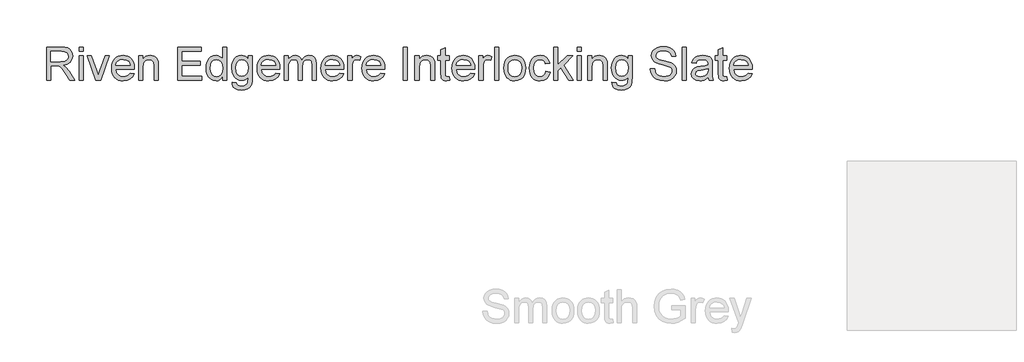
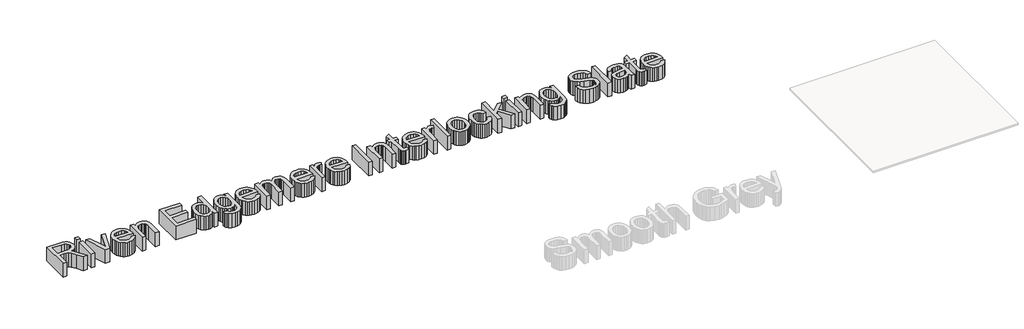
# One storey, part 7 of 8: 1 proxy.
"""IFC4 building model written with IfcOpenShell, lengths in millimetres."""

from ifc_helpers import new_model, si_unit, frame, origin, place, context, project, spatial, polyline, outline, extrude, element, save

model = new_model("IFC4")

# Units and contexts
model_context = context("Model", 3, world=origin())
ifc_project = project(units=[si_unit("LENGTHUNIT", "METRE", prefix="MILLI")], contexts=[model_context])

# Site, building, storey
site = spatial("IfcSite", under=ifc_project)
building = spatial("IfcBuilding", under=site)
storey = spatial("IfcBuildingStorey", under=building, Name="Marley Concrete Interlocking Tiles", Elevation=3000.0)

# Proxy
placement = place(None, origin())
element("IfcBuildingElementProxy", 1, Name="600mm Arial", ObjectType="600mm Arial", at=placement, inside=storey, context=model_context, shape_type="SweptSolid", body=[
    extrude(outline(polyline([(3242.0495664, 5754.8577194), (3242.0495664, 6050.2423348), (3369.3332203, 6050.2423348), (3403.5429558, 6048.2501473), (3428.4317779, 6042.2735848), (3446.6228837, 6031.2399309), (3460.7394703, 6014.0764694), (3469.7989654, 5992.7934165), (3472.8187972, 5969.4009886), (3467.8157924, 5940.3024309), (3452.8067779, 5916.1798348), (3441.4373368, 5906.3496064), (3427.3410328, 5898.4935367), (3390.9678356, 5888.7038732), (3411.9534126, 5872.910604), (3441.8812972, 5834.9057963), (3491.1361049, 5754.8577194), (3448.227451, 5754.8577194), (3409.789951, 5816.0836809), (3382.0255279, 5856.6125271), (3362.5183164, 5875.7591617), (3344.9582203, 5882.7904117), (3323.539951, 5884.0884886), (3278.9726433, 5884.0884886), (3278.9726433, 5754.8577194), (3242.0495664, 5754.8577194)]), holes=[polyline([(3278.9726433, 5921.0115655), (3361.6168741, 5921.0115655), (3385.3518501, 5922.3186569), (3403.7683164, 5926.2399309), (3417.6324991, 5933.0368059), (3427.7106241, 5942.9707001), (3433.8494462, 5954.9869261), (3435.8957203, 5968.0307963), (3431.9924751, 5986.0416136), (3420.2827395, 6000.5548348), (3400.1355039, 6010.1281521), (3370.9197587, 6013.3192578), (3278.9726433, 6013.3192578), (3278.9726433, 5921.0115655)])]), frame((0.0, 0.0, 3000.0), z_axis=(0.0, 0.0, 1.0), x_axis=(1.0, 0.0, 0.0)), (0.0, 0.0, 1.0), 150.0),
    extrude(outline(polyline([(3532.8187972, 5754.8577194), (3532.8187972, 5971.7807963), (3569.7418741, 5971.7807963), (3569.7418741, 5754.8577194), (3532.8187972, 5754.8577194)])), frame((0.0, 0.0, 3000.0), z_axis=(0.0, 0.0, 1.0), x_axis=(1.0, 0.0, 0.0)), (0.0, 0.0, 1.0), 150.0),
    extrude(outline(polyline([(3532.8187972, 6013.3192578), (3532.8187972, 6050.2423348), (3569.7418741, 6050.2423348), (3569.7418741, 6013.3192578), (3532.8187972, 6013.3192578)])), frame((0.0, 0.0, 3000.0), z_axis=(0.0, 0.0, 1.0), x_axis=(1.0, 0.0, 0.0)), (0.0, 0.0, 1.0), 150.0),
    extrude(outline(polyline([(3678.3476433, 5754.8577194), (3602.0495664, 5971.7807963), (3641.1361049, 5971.7807963), (3687.3620664, 5841.8288732), (3701.2803356, 5798.1269501), (3714.9101433, 5839.3769501), (3761.4245664, 5971.7807963), (3800.5111049, 5971.7807963), (3725.1505279, 5754.8577194), (3678.3476433, 5754.8577194)])), frame((0.0, 0.0, 3000.0), z_axis=(0.0, 0.0, 1.0), x_axis=(1.0, 0.0, 0.0)), (0.0, 0.0, 1.0), 150.0),
    extrude(outline(polyline([(3984.6937972, 5819.473104), (4020.8957203, 5814.8577194), (4007.8518501, 5787.5800751), (3987.0375472, 5767.1894501), (3958.9215616, 5754.4791136), (3923.9726433, 5750.2423348), (3901.0624871, 5752.070009), (3880.649326, 5757.5530319), (3862.7331602, 5766.6914033), (3847.3139895, 5779.4851232), (3834.9146505, 5795.578122), (3826.0579799, 5814.61433), (3820.7439775, 5836.593747), (3818.9726433, 5861.5163732), (3820.7620063, 5887.2841016), (3826.1300953, 5909.9959405), (3835.0769102, 5929.65189), (3847.602451, 5946.2519501), (3862.9810568, 5959.4400511), (3880.4870664, 5968.8601232), (3900.1204799, 5974.5121665), (3921.8812972, 5976.3961809), (3942.9412431, 5974.5166737), (3961.9864654, 5968.8781521), (3979.0169642, 5959.480616), (3994.0327395, 5946.3240655), (4006.2901013, 5929.7600631), (4015.0453597, 5910.1401713), (4020.2985147, 5887.46439), (4022.0495664, 5861.7327194), (4021.8332203, 5851.7807963), (3855.8957203, 5851.7807963), (3862.2869462, 5824.1425751), (3877.133701, 5803.8240655), (3898.5609847, 5791.3300751), (3924.6937972, 5787.1654117), (3944.3452395, 5789.0944982), (3960.8957203, 5794.8817578), (3974.3452395, 5804.8877675), (3984.6937972, 5819.473104)]), holes=[polyline([(3855.8957203, 5888.7038732), (3985.1264895, 5888.7038732), (3980.1324991, 5908.2110848), (3970.3428356, 5922.1654117), (3948.8163933, 5935.1461809), (3921.7370664, 5939.473104), (3896.8482443, 5936.02058), (3876.2683164, 5925.6630078), (3861.962427, 5909.5181761), (3855.8957203, 5888.7038732)])]), frame((0.0, 0.0, 3000.0), z_axis=(0.0, 0.0, 1.0), x_axis=(1.0, 0.0, 0.0)), (0.0, 0.0, 1.0), 150.0),
    extrude(outline(polyline([(4058.9726433, 5754.8577194), (4058.9726433, 5971.7807963), (4095.8957203, 5971.7807963), (4095.8957203, 5941.4923348), (4108.7232443, 5956.7627675), (4124.1288933, 5967.6702194), (4142.1126674, 5974.2146905), (4162.6745664, 5976.3961809), (4180.8746866, 5974.6383684), (4197.5423549, 5969.3649309), (4211.4425953, 5961.2339213), (4221.3404318, 5950.9033925), (4232.4101433, 5923.7519501), (4234.3572587, 5888.0548348), (4234.3572587, 5754.8577194), (4197.4341818, 5754.8577194), (4197.4341818, 5883.0788732), (4193.1793741, 5915.7471425), (4187.2929558, 5925.473705), (4178.1433164, 5933.0187771), (4166.415552, 5937.8595223), (4152.7947587, 5939.473104), (4131.1691578, 5935.8493059), (4112.7346626, 5924.9779117), (4105.3676253, 5916.1032122), (4100.1054558, 5903.9743059), (4095.8957203, 5869.9538732), (4095.8957203, 5754.8577194), (4058.9726433, 5754.8577194)])), frame((0.0, 0.0, 3000.0), z_axis=(0.0, 0.0, 1.0), x_axis=(1.0, 0.0, 0.0)), (0.0, 0.0, 1.0), 150.0),
    extrude(outline(polyline([(4405.1264895, 5754.8577194), (4405.1264895, 6050.2423348), (4617.4341818, 6050.2423348), (4617.4341818, 6013.3192578), (4442.0495664, 6013.3192578), (4442.0495664, 5925.6269501), (4608.2034126, 5925.6269501), (4608.2034126, 5888.7038732), (4442.0495664, 5888.7038732), (4442.0495664, 5791.7807963), (4622.0495664, 5791.7807963), (4622.0495664, 5754.8577194), (4405.1264895, 5754.8577194)])), frame((0.0, 0.0, 3000.0), z_axis=(0.0, 0.0, 1.0), x_axis=(1.0, 0.0, 0.0)), (0.0, 0.0, 1.0), 150.0),
    extrude(outline(polyline([(4806.664951, 5754.8577194), (4806.664951, 5789.6894501), (4795.6177755, 5772.4313372), (4782.2358645, 5760.1041136), (4766.5192179, 5752.7077795), (4748.4678356, 5750.2423348), (4724.5976433, 5753.8120463), (4702.7466818, 5764.5211809), (4684.2490856, 5781.6215415), (4670.4389895, 5804.3649309), (4661.8392299, 5831.831878), (4658.9726433, 5863.1029117), (4661.6138693, 5893.9863251), (4669.5375472, 5921.8769501), (4682.7346626, 5945.1882482), (4701.196201, 5962.3336809), (4723.524927, 5972.8805559), (4748.3236049, 5976.3961809), (4766.3885087, 5973.8811569), (4782.3620664, 5966.3360848), (4795.9017299, 5954.77058), (4806.664951, 5940.1942578), (4806.664951, 6050.2423348), (4843.5880279, 6050.2423348), (4843.5880279, 5754.8577194), (4806.664951, 5754.8577194)]), holes=[polyline([(4695.8957203, 5863.2471425), (4700.0603837, 5829.848705), (4712.5543741, 5806.0957001), (4730.7094222, 5791.8979838), (4751.8572587, 5787.1654117), (4772.9960808, 5791.6816376), (4790.6913933, 5805.2303155), (4802.6715616, 5828.0638492), (4806.664951, 5860.4346425), (4802.5994462, 5895.8252675), (4790.4029318, 5920.3625271), (4772.2568981, 5934.6954598), (4750.3428356, 5939.473104), (4728.9786529, 5934.8847626), (4711.4726433, 5921.1197386), (4699.789951, 5897.4749069), (4695.8957203, 5863.2471425)])]), frame((0.0, 0.0, 3000.0), z_axis=(0.0, 0.0, 1.0), x_axis=(1.0, 0.0, 0.0)), (0.0, 0.0, 1.0), 150.0),
    extrude(outline(polyline([(4889.7418741, 5736.3961809), (4926.664951, 5731.7807963), (4930.7394703, 5720.2423348), (4938.6361049, 5712.3096425), (4954.1589414, 5706.1437771), (4974.477451, 5704.0884886), (4996.1481241, 5706.4142098), (5012.2659126, 5713.3913732), (5023.4437972, 5724.5692578), (5030.2947587, 5739.4971425), (5032.8187972, 5782.5500271), (5020.5321385, 5770.4346425), (5006.821201, 5761.7807963), (4991.6859847, 5756.5884886), (4975.1264895, 5754.8577194), (4954.8823489, 5756.8724429), (4937.0585808, 5762.9166136), (4921.6551854, 5772.9902314), (4908.6721626, 5787.0932963), (4898.3709306, 5804.0133684), (4891.0129078, 5822.5380078), (4885.1264895, 5864.4009886), (4887.7677154, 5894.2116857), (4895.6913933, 5921.6245463), (4908.618076, 5944.8547146), (4926.2683164, 5962.1173348), (4948.0381481, 5972.8264694), (4973.3236049, 5976.3961809), (4990.5907323, 5974.3769501), (5006.2623068, 5968.3192578), (5020.3383284, 5958.223104), (5032.8187972, 5944.0884886), (5032.8187972, 5971.7807963), (5069.7418741, 5971.7807963), (5069.7418741, 5784.4971425), (5067.2178356, 5741.254955), (5059.6457203, 5712.7783925), (5046.6018501, 5693.8931761), (5027.6625472, 5679.4250271), (5003.2424751, 5670.2303155), (4973.7562972, 5667.1654117), (4939.4023308, 5671.4833203), (4912.3500472, 5684.4370463), (4902.1614955, 5694.1613552), (4894.9972828, 5706.0626473), (4890.857409, 5720.1409225), (4889.7418741, 5736.3961809)]), holes=[polyline([(4922.0495664, 5866.9250271), (4925.9888693, 5833.0578396), (4937.8067779, 5809.7735848), (4955.5742058, 5796.2789934), (4977.3620664, 5791.7807963), (4998.9876674, 5796.2519501), (5016.8452395, 5809.6654117), (5028.8254078, 5832.6521905), (5032.8187972, 5865.8432963), (5028.7082203, 5897.8535126), (5016.3764895, 5920.9033925), (4998.2574991, 5934.8306761), (4976.7851433, 5939.473104), (4955.7004078, 5934.9027915), (4938.0231241, 5921.191854), (4926.0429558, 5898.4845223), (4922.0495664, 5866.9250271)])]), frame((0.0, 0.0, 3000.0), z_axis=(0.0, 0.0, 1.0), x_axis=(1.0, 0.0, 0.0)), (0.0, 0.0, 1.0), 150.0),
    extrude(outline(polyline([(5277.0014895, 5819.473104), (5313.2034126, 5814.8577194), (5300.1595424, 5787.5800751), (5279.3452395, 5767.1894501), (5251.2292539, 5754.4791136), (5216.2803356, 5750.2423348), (5193.3701794, 5752.070009), (5172.9570183, 5757.5530319), (5155.0408525, 5766.6914033), (5139.6216818, 5779.4851232), (5127.2223429, 5795.578122), (5118.3656722, 5814.61433), (5113.0516698, 5836.593747), (5111.2803356, 5861.5163732), (5113.0696986, 5887.2841016), (5118.4377876, 5909.9959405), (5127.3846025, 5929.65189), (5139.9101433, 5946.2519501), (5155.2887491, 5959.4400511), (5172.7947587, 5968.8601232), (5192.4281722, 5974.5121665), (5214.1889895, 5976.3961809), (5235.2489354, 5974.5166737), (5254.2941578, 5968.8781521), (5271.3246566, 5959.480616), (5286.3404318, 5946.3240655), (5298.5977936, 5929.7600631), (5307.353052, 5910.1401713), (5312.606207, 5887.46439), (5314.3572587, 5861.7327194), (5314.1409126, 5851.7807963), (5148.2034126, 5851.7807963), (5154.5946385, 5824.1425751), (5169.4413933, 5803.8240655), (5190.868677, 5791.3300751), (5217.0014895, 5787.1654117), (5236.6529318, 5789.0944982), (5253.2034126, 5794.8817578), (5266.6529318, 5804.8877675), (5277.0014895, 5819.473104)]), holes=[polyline([(5148.2034126, 5888.7038732), (5277.4341818, 5888.7038732), (5272.4401914, 5908.2110848), (5262.6505279, 5922.1654117), (5241.1240856, 5935.1461809), (5214.0447587, 5939.473104), (5189.1559366, 5936.02058), (5168.5760087, 5925.6630078), (5154.2701193, 5909.5181761), (5148.2034126, 5888.7038732)])]), frame((0.0, 0.0, 3000.0), z_axis=(0.0, 0.0, 1.0), x_axis=(1.0, 0.0, 0.0)), (0.0, 0.0, 1.0), 150.0),
    extrude(outline(polyline([(5351.2803356, 5754.8577194), (5351.2803356, 5971.7807963), (5388.2034126, 5971.7807963), (5388.2034126, 5936.0836809), (5399.3091818, 5952.4809165), (5413.5880279, 5965.3264694), (5430.5531722, 5973.628753), (5449.7178356, 5976.3961809), (5470.2526914, 5973.5746665), (5486.7130279, 5965.1101232), (5499.008701, 5951.5614453), (5507.0495664, 5933.4875271), (5520.5081001, 5952.2600631), (5535.8596626, 5965.6690175), (5553.1042539, 5973.71439), (5572.2418741, 5976.3961809), (5599.9972828, 5971.9340415), (5620.5231241, 5958.5476232), (5633.2064174, 5935.8763492), (5637.4341818, 5903.5596425), (5637.4341818, 5754.8577194), (5600.5111049, 5754.8577194), (5600.5111049, 5887.6942578), (5597.0856241, 5918.5235848), (5592.2719222, 5927.0241857), (5584.6817779, 5933.7038732), (5574.9191578, 5938.0307963), (5563.5880279, 5939.473104), (5543.5850231, 5935.7771905), (5527.2779318, 5924.6894501), (5516.4335808, 5905.4526713), (5512.8187972, 5877.3096425), (5512.8187972, 5754.8577194), (5475.8957203, 5754.8577194), (5475.8957203, 5891.8048348), (5473.759302, 5912.6822386), (5467.3500472, 5927.5740655), (5456.0730039, 5936.4983444), (5439.3332203, 5939.473104), (5425.1084606, 5937.4899309), (5412.0014895, 5931.5404117), (5401.1841818, 5921.7687771), (5393.8284126, 5908.3192578), (5389.6096626, 5889.6594021), (5388.2034126, 5864.2567578), (5388.2034126, 5754.8577194), (5351.2803356, 5754.8577194)])), frame((0.0, 0.0, 3000.0), z_axis=(0.0, 0.0, 1.0), x_axis=(1.0, 0.0, 0.0)), (0.0, 0.0, 1.0), 150.0),
    extrude(outline(polyline([(5844.6937972, 5819.473104), (5880.8957203, 5814.8577194), (5867.8518501, 5787.5800751), (5847.0375472, 5767.1894501), (5818.9215616, 5754.4791136), (5783.9726433, 5750.2423348), (5761.0624871, 5752.070009), (5740.649326, 5757.5530319), (5722.7331602, 5766.6914033), (5707.3139895, 5779.4851232), (5694.9146505, 5795.578122), (5686.0579799, 5814.61433), (5680.7439775, 5836.593747), (5678.9726433, 5861.5163732), (5680.7620063, 5887.2841016), (5686.1300953, 5909.9959405), (5695.0769102, 5929.65189), (5707.602451, 5946.2519501), (5722.9810568, 5959.4400511), (5740.4870664, 5968.8601232), (5760.1204799, 5974.5121665), (5781.8812972, 5976.3961809), (5802.9412431, 5974.5166737), (5821.9864654, 5968.8781521), (5839.0169642, 5959.480616), (5854.0327395, 5946.3240655), (5866.2901013, 5929.7600631), (5875.0453597, 5910.1401713), (5880.2985147, 5887.46439), (5882.0495664, 5861.7327194), (5881.8332203, 5851.7807963), (5715.8957203, 5851.7807963), (5722.2869462, 5824.1425751), (5737.133701, 5803.8240655), (5758.5609847, 5791.3300751), (5784.6937972, 5787.1654117), (5804.3452395, 5789.0944982), (5820.8957203, 5794.8817578), (5834.3452395, 5804.8877675), (5844.6937972, 5819.473104)]), holes=[polyline([(5715.8957203, 5888.7038732), (5845.1264895, 5888.7038732), (5840.1324991, 5908.2110848), (5830.3428356, 5922.1654117), (5808.8163933, 5935.1461809), (5781.7370664, 5939.473104), (5756.8482443, 5936.02058), (5736.2683164, 5925.6630078), (5721.962427, 5909.5181761), (5715.8957203, 5888.7038732)])]), frame((0.0, 0.0, 3000.0), z_axis=(0.0, 0.0, 1.0), x_axis=(1.0, 0.0, 0.0)), (0.0, 0.0, 1.0), 150.0),
    extrude(outline(polyline([(5918.9726433, 5754.8577194), (5918.9726433, 5971.7807963), (5951.2803356, 5971.7807963), (5951.2803356, 5939.6894501), (5963.2154318, 5958.2952194), (5974.2130279, 5969.2567578), (5985.2466818, 5974.6113251), (5997.289951, 5976.3961809), (6015.6793741, 5973.5476232), (6034.3572587, 5965.0019501), (6022.0255279, 5931.9009886), (6009.0447587, 5937.5800751), (5996.0639895, 5939.473104), (5985.0393501, 5937.6521905), (5975.1865856, 5932.1894501), (5967.2268501, 5923.4995463), (5961.8812972, 5911.9971425), (5957.3921145, 5891.3721425), (5955.8957203, 5868.8721425), (5955.8957203, 5754.8577194), (5918.9726433, 5754.8577194)])), frame((0.0, 0.0, 3000.0), z_axis=(0.0, 0.0, 1.0), x_axis=(1.0, 0.0, 0.0)), (0.0, 0.0, 1.0), 150.0),
    extrude(outline(polyline([(6209.3091818, 5819.473104), (6245.5111049, 5814.8577194), (6232.4672347, 5787.5800751), (6211.6529318, 5767.1894501), (6183.5369462, 5754.4791136), (6148.5880279, 5750.2423348), (6125.6778717, 5752.070009), (6105.2647106, 5757.5530319), (6087.3485448, 5766.6914033), (6071.9293741, 5779.4851232), (6059.5300352, 5795.578122), (6050.6733645, 5814.61433), (6045.3593621, 5836.593747), (6043.5880279, 5861.5163732), (6045.3773909, 5887.2841016), (6050.7454799, 5909.9959405), (6059.6922948, 5929.65189), (6072.2178356, 5946.2519501), (6087.5964414, 5959.4400511), (6105.102451, 5968.8601232), (6124.7358645, 5974.5121665), (6146.4966818, 5976.3961809), (6167.5566277, 5974.5166737), (6186.6018501, 5968.8781521), (6203.6323489, 5959.480616), (6218.6481241, 5946.3240655), (6230.9054859, 5929.7600631), (6239.6607443, 5910.1401713), (6244.9138993, 5887.46439), (6246.664951, 5861.7327194), (6246.4486049, 5851.7807963), (6080.5111049, 5851.7807963), (6086.9023308, 5824.1425751), (6101.7490856, 5803.8240655), (6123.1763693, 5791.3300751), (6149.3091818, 5787.1654117), (6168.9606241, 5789.0944982), (6185.5111049, 5794.8817578), (6198.9606241, 5804.8877675), (6209.3091818, 5819.473104)]), holes=[polyline([(6080.5111049, 5888.7038732), (6209.7418741, 5888.7038732), (6204.7478837, 5908.2110848), (6194.9582203, 5922.1654117), (6173.4317779, 5935.1461809), (6146.352451, 5939.473104), (6121.4636289, 5936.02058), (6100.883701, 5925.6630078), (6086.5778116, 5909.5181761), (6080.5111049, 5888.7038732)])]), frame((0.0, 0.0, 3000.0), z_axis=(0.0, 0.0, 1.0), x_axis=(1.0, 0.0, 0.0)), (0.0, 0.0, 1.0), 150.0),
    extrude(outline(polyline([(6408.2034126, 5754.8577194), (6408.2034126, 6050.2423348), (6445.1264895, 6050.2423348), (6445.1264895, 5754.8577194), (6408.2034126, 5754.8577194)])), frame((0.0, 0.0, 3000.0), z_axis=(0.0, 0.0, 1.0), x_axis=(1.0, 0.0, 0.0)), (0.0, 0.0, 1.0), 150.0),
    extrude(outline(polyline([(6514.3572587, 5754.8577194), (6514.3572587, 5971.7807963), (6551.2803356, 5971.7807963), (6551.2803356, 5941.4923348), (6564.1078597, 5956.7627675), (6579.5135087, 5967.6702194), (6597.4972828, 5974.2146905), (6618.0591818, 5976.3961809), (6636.259302, 5974.6383684), (6652.9269703, 5969.3649309), (6666.8272106, 5961.2339213), (6676.7250472, 5950.9033925), (6687.7947587, 5923.7519501), (6689.7418741, 5888.0548348), (6689.7418741, 5754.8577194), (6652.8187972, 5754.8577194), (6652.8187972, 5883.0788732), (6648.5639895, 5915.7471425), (6642.6775712, 5925.473705), (6633.5279318, 5933.0187771), (6621.8001674, 5937.8595223), (6608.1793741, 5939.473104), (6586.5537731, 5935.8493059), (6568.1192779, 5924.9779117), (6560.7522407, 5916.1032122), (6555.4900712, 5903.9743059), (6551.2803356, 5869.9538732), (6551.2803356, 5754.8577194), (6514.3572587, 5754.8577194)])), frame((0.0, 0.0, 3000.0), z_axis=(0.0, 0.0, 1.0), x_axis=(1.0, 0.0, 0.0)), (0.0, 0.0, 1.0), 150.0),
    extrude(outline(polyline([(6818.9726433, 5785.6509886), (6823.5880279, 5753.7759886), (6795.9678356, 5750.2423348), (6778.2454799, 5751.7747867), (6765.0303356, 5756.3721425), (6755.6913933, 5763.457479), (6749.5976433, 5772.4538732), (6746.2442779, 5787.9045944), (6745.1264895, 5814.3529117), (6745.1264895, 5934.8577194), (6717.4341818, 5934.8577194), (6717.4341818, 5971.7807963), (6745.1264895, 5971.7807963), (6745.1264895, 6024.4971425), (6782.0495664, 6046.2038732), (6782.0495664, 5971.7807963), (6818.9726433, 5971.7807963), (6818.9726433, 5934.8577194), (6782.0495664, 5934.8577194), (6782.0495664, 5815.4346425), (6783.9966818, 5796.3961809), (6790.3067779, 5789.6533925), (6802.8909126, 5787.1654117), (6818.9726433, 5785.6509886)])), frame((0.0, 0.0, 3000.0), z_axis=(0.0, 0.0, 1.0), x_axis=(1.0, 0.0, 0.0)), (0.0, 0.0, 1.0), 150.0),
    extrude(outline(polyline([(7007.7707203, 5819.473104), (7043.9726433, 5814.8577194), (7030.9287731, 5787.5800751), (7010.1144703, 5767.1894501), (6981.9984847, 5754.4791136), (6947.0495664, 5750.2423348), (6924.1394102, 5752.070009), (6903.7262491, 5757.5530319), (6885.8100832, 5766.6914033), (6870.3909126, 5779.4851232), (6857.9915736, 5795.578122), (6849.1349029, 5814.61433), (6843.8209005, 5836.593747), (6842.0495664, 5861.5163732), (6843.8389294, 5887.2841016), (6849.2070183, 5909.9959405), (6858.1538332, 5929.65189), (6870.6793741, 5946.2519501), (6886.0579799, 5959.4400511), (6903.5639895, 5968.8601232), (6923.1974029, 5974.5121665), (6944.9582203, 5976.3961809), (6966.0181662, 5974.5166737), (6985.0633885, 5968.8781521), (7002.0938873, 5959.480616), (7017.1096626, 5946.3240655), (7029.3670243, 5929.7600631), (7038.1222828, 5910.1401713), (7043.3754378, 5887.46439), (7045.1264895, 5861.7327194), (7044.9101433, 5851.7807963), (6878.9726433, 5851.7807963), (6885.3638693, 5824.1425751), (6900.2106241, 5803.8240655), (6921.6379078, 5791.3300751), (6947.7707203, 5787.1654117), (6967.4221626, 5789.0944982), (6983.9726433, 5794.8817578), (6997.4221626, 5804.8877675), (7007.7707203, 5819.473104)]), holes=[polyline([(6878.9726433, 5888.7038732), (7008.2034126, 5888.7038732), (7003.2094222, 5908.2110848), (6993.4197587, 5922.1654117), (6971.8933164, 5935.1461809), (6944.8139895, 5939.473104), (6919.9251674, 5936.02058), (6899.3452395, 5925.6630078), (6885.0393501, 5909.5181761), (6878.9726433, 5888.7038732)])]), frame((0.0, 0.0, 3000.0), z_axis=(0.0, 0.0, 1.0), x_axis=(1.0, 0.0, 0.0)), (0.0, 0.0, 1.0), 150.0),
    extrude(outline(polyline([(7082.0495664, 5754.8577194), (7082.0495664, 5971.7807963), (7114.3572587, 5971.7807963), (7114.3572587, 5939.6894501), (7126.2923549, 5958.2952194), (7137.289951, 5969.2567578), (7148.3236049, 5974.6113251), (7160.3668741, 5976.3961809), (7178.7562972, 5973.5476232), (7197.4341818, 5965.0019501), (7185.102451, 5931.9009886), (7172.1216818, 5937.5800751), (7159.1409126, 5939.473104), (7148.1162731, 5937.6521905), (7138.2635087, 5932.1894501), (7130.3037731, 5923.4995463), (7124.9582203, 5911.9971425), (7120.4690376, 5891.3721425), (7118.9726433, 5868.8721425), (7118.9726433, 5754.8577194), (7082.0495664, 5754.8577194)])), frame((0.0, 0.0, 3000.0), z_axis=(0.0, 0.0, 1.0), x_axis=(1.0, 0.0, 0.0)), (0.0, 0.0, 1.0), 150.0),
    extrude(outline(polyline([(7220.5111049, 5754.8577194), (7220.5111049, 6050.2423348), (7257.4341818, 6050.2423348), (7257.4341818, 5754.8577194), (7220.5111049, 5754.8577194)])), frame((0.0, 0.0, 3000.0), z_axis=(0.0, 0.0, 1.0), x_axis=(1.0, 0.0, 0.0)), (0.0, 0.0, 1.0), 150.0),
    extrude(outline(polyline([(7303.5880279, 5863.3192578), (7305.5847227, 5891.4127074), (7311.5748068, 5915.6209405), (7321.5582804, 5935.9439574), (7335.5351433, 5952.3817578), (7349.6066578, 5962.8880679), (7365.1385087, 5970.3925751), (7382.1306962, 5974.8952795), (7400.5832203, 5976.3961809), (7420.9535628, 5974.5685066), (7439.3722828, 5969.0854838), (7455.8393801, 5959.9471124), (7470.3548549, 5947.1533925), (7482.2020604, 5931.1370162), (7490.6643501, 5912.3306761), (7495.7417239, 5890.734372), (7497.4341818, 5866.348104), (7494.4413933, 5829.0464213), (7485.4630279, 5800.6509886), (7470.7605039, 5779.3859646), (7450.5952395, 5763.4755078), (7426.6439174, 5753.550628), (7400.5832203, 5750.2423348), (7379.9154017, 5752.0632482), (7361.3254078, 5757.5259886), (7344.8132383, 5766.6305559), (7330.3788933, 5779.3769501), (7318.6578897, 5795.5488251), (7310.2857443, 5814.9298348), (7305.262457, 5837.519979), (7303.5880279, 5863.3192578)]), holes=[polyline([(7340.5111049, 5863.3913732), (7344.7839414, 5829.9749069), (7357.602451, 5806.1678155), (7376.8933164, 5791.9160126), (7400.5832203, 5787.1654117), (7424.164951, 5791.9430559), (7443.4197587, 5806.2759886), (7456.2382683, 5830.3985848), (7460.5111049, 5864.5452194), (7456.2112251, 5896.988128), (7443.3115856, 5920.4707001), (7424.0297347, 5934.722503), (7400.5832203, 5939.473104), (7376.8933164, 5934.7405319), (7357.602451, 5920.5428155), (7344.7839414, 5896.7898107), (7340.5111049, 5863.3913732)])]), frame((0.0, 0.0, 3000.0), z_axis=(0.0, 0.0, 1.0), x_axis=(1.0, 0.0, 0.0)), (0.0, 0.0, 1.0), 150.0),
    extrude(outline(polyline([(7677.4341818, 5833.3192578), (7714.3572587, 5828.7038732), (7704.0627876, 5795.86433), (7684.7178356, 5771.0476232), (7658.1433164, 5755.4436569), (7626.1601433, 5750.2423348), (7605.4517599, 5752.0564874), (7586.884302, 5757.4989453), (7570.4577695, 5766.5697086), (7556.1721626, 5779.2687771), (7544.6089114, 5795.3572687), (7536.3494462, 5814.5963011), (7531.3937671, 5836.9858744), (7529.7418741, 5862.5259886), (7532.5633885, 5895.3835607), (7541.0279318, 5923.8601232), (7555.2707203, 5946.8559165), (7575.4269703, 5963.2711809), (7599.540552, 5973.1149309), (7625.6553356, 5976.3961809), (7656.8542539, 5971.8889694), (7681.7971626, 5958.3673348), (7699.6907924, 5936.5524309), (7709.7418741, 5907.1654117), (7672.8187972, 5902.5500271), (7666.1210808, 5918.6588011), (7655.6913933, 5930.2062771), (7642.1066578, 5937.1563973), (7625.9437972, 5939.473104), (7602.0826193, 5934.9118059), (7583.1433164, 5921.2279117), (7570.7845424, 5897.6822386), (7566.664951, 5863.535604), (7570.6943981, 5828.9292338), (7582.7827395, 5805.3024309), (7601.3794943, 5791.6996665), (7624.9341818, 5787.1654117), (7644.0537731, 5789.9959405), (7659.7298549, 5798.4875271), (7671.1331001, 5812.8565175), (7677.4341818, 5833.3192578)])), frame((0.0, 0.0, 3000.0), z_axis=(0.0, 0.0, 1.0), x_axis=(1.0, 0.0, 0.0)), (0.0, 0.0, 1.0), 150.0),
    extrude(outline(polyline([(7746.664951, 5754.8577194), (7746.664951, 6050.2423348), (7783.5880279, 6050.2423348), (7783.5880279, 5891.5163732), (7866.3764895, 5971.7807963), (7917.4341818, 5971.7807963), (7833.6361049, 5890.5067578), (7922.0495664, 5754.8577194), (7878.9245664, 5754.8577194), (7807.1697587, 5864.8336809), (7783.5880279, 5841.973104), (7783.5880279, 5754.8577194), (7746.664951, 5754.8577194)])), frame((0.0, 0.0, 3000.0), z_axis=(0.0, 0.0, 1.0), x_axis=(1.0, 0.0, 0.0)), (0.0, 0.0, 1.0), 150.0),
    extrude(outline(polyline([(7954.3572587, 5754.8577194), (7954.3572587, 5971.7807963), (7991.2803356, 5971.7807963), (7991.2803356, 5754.8577194), (7954.3572587, 5754.8577194)])), frame((0.0, 0.0, 3000.0), z_axis=(0.0, 0.0, 1.0), x_axis=(1.0, 0.0, 0.0)), (0.0, 0.0, 1.0), 150.0),
    extrude(outline(polyline([(7954.3572587, 6013.3192578), (7954.3572587, 6050.2423348), (7991.2803356, 6050.2423348), (7991.2803356, 6013.3192578), (7954.3572587, 6013.3192578)])), frame((0.0, 0.0, 3000.0), z_axis=(0.0, 0.0, 1.0), x_axis=(1.0, 0.0, 0.0)), (0.0, 0.0, 1.0), 150.0),
    extrude(outline(polyline([(8046.664951, 5754.8577194), (8046.664951, 5971.7807963), (8083.5880279, 5971.7807963), (8083.5880279, 5941.4923348), (8096.415552, 5956.7627675), (8111.821201, 5967.6702194), (8129.8049751, 5974.2146905), (8150.3668741, 5976.3961809), (8168.5669943, 5974.6383684), (8185.2346626, 5969.3649309), (8199.1349029, 5961.2339213), (8209.0327395, 5950.9033925), (8220.102451, 5923.7519501), (8222.0495664, 5888.0548348), (8222.0495664, 5754.8577194), (8185.1264895, 5754.8577194), (8185.1264895, 5883.0788732), (8180.8716818, 5915.7471425), (8174.9852635, 5925.473705), (8165.8356241, 5933.0187771), (8154.1078597, 5937.8595223), (8140.4870664, 5939.473104), (8118.8614654, 5935.8493059), (8100.4269703, 5924.9779117), (8093.059933, 5916.1032122), (8087.7977635, 5903.9743059), (8083.5880279, 5869.9538732), (8083.5880279, 5754.8577194), (8046.664951, 5754.8577194)])), frame((0.0, 0.0, 3000.0), z_axis=(0.0, 0.0, 1.0), x_axis=(1.0, 0.0, 0.0)), (0.0, 0.0, 1.0), 150.0),
    extrude(outline(polyline([(8263.5880279, 5736.3961809), (8300.5111049, 5731.7807963), (8304.5856241, 5720.2423348), (8312.4822587, 5712.3096425), (8328.0050953, 5706.1437771), (8348.3236049, 5704.0884886), (8369.9942779, 5706.4142098), (8386.1120664, 5713.3913732), (8397.289951, 5724.5692578), (8404.1409126, 5739.4971425), (8406.664951, 5782.5500271), (8394.3782924, 5770.4346425), (8380.6673549, 5761.7807963), (8365.5321385, 5756.5884886), (8348.9726433, 5754.8577194), (8328.7285027, 5756.8724429), (8310.9047347, 5762.9166136), (8295.5013392, 5772.9902314), (8282.5183164, 5787.0932963), (8272.2170844, 5804.0133684), (8264.8590616, 5822.5380078), (8258.9726433, 5864.4009886), (8261.6138693, 5894.2116857), (8269.5375472, 5921.6245463), (8282.4642299, 5944.8547146), (8300.1144703, 5962.1173348), (8321.884302, 5972.8264694), (8347.1697587, 5976.3961809), (8364.4368861, 5974.3769501), (8380.1084606, 5968.3192578), (8394.1844823, 5958.223104), (8406.664951, 5944.0884886), (8406.664951, 5971.7807963), (8443.5880279, 5971.7807963), (8443.5880279, 5784.4971425), (8441.0639895, 5741.254955), (8433.4918741, 5712.7783925), (8420.4480039, 5693.8931761), (8401.508701, 5679.4250271), (8377.0886289, 5670.2303155), (8347.602451, 5667.1654117), (8313.2484847, 5671.4833203), (8286.196201, 5684.4370463), (8276.0076493, 5694.1613552), (8268.8434366, 5706.0626473), (8264.7035628, 5720.1409225), (8263.5880279, 5736.3961809)]), holes=[polyline([(8295.8957203, 5866.9250271), (8299.8350231, 5833.0578396), (8311.6529318, 5809.7735848), (8329.4203597, 5796.2789934), (8351.2082203, 5791.7807963), (8372.8338212, 5796.2519501), (8390.6913933, 5809.6654117), (8402.6715616, 5832.6521905), (8406.664951, 5865.8432963), (8402.5543741, 5897.8535126), (8390.2226433, 5920.9033925), (8372.1036529, 5934.8306761), (8350.6312972, 5939.473104), (8329.5465616, 5934.9027915), (8311.8692779, 5921.191854), (8299.8891097, 5898.4845223), (8295.8957203, 5866.9250271)])]), frame((0.0, 0.0, 3000.0), z_axis=(0.0, 0.0, 1.0), x_axis=(1.0, 0.0, 0.0)), (0.0, 0.0, 1.0), 150.0),
    extrude(outline(polyline([(8605.1264895, 5856.3961809), (8642.0495664, 5856.3961809), (8646.2863453, 5835.9063973), (8653.9486049, 5819.4370463), (8665.9017299, 5806.3661328), (8683.0111049, 5796.0716617), (8703.9245664, 5789.3919742), (8727.289951, 5787.1654117), (8747.8608645, 5788.8511088), (8765.8716818, 5793.9082001), (8780.4660328, 5801.9130078), (8790.7875472, 5812.441854), (8796.9263693, 5824.5301953), (8798.9726433, 5837.2134886), (8797.4401914, 5849.5722626), (8792.8428356, 5860.254354), (8783.5038933, 5869.3679357), (8767.7466818, 5877.0211809), (8713.9846626, 5891.1197386), (8678.6931962, 5900.4496665), (8656.1120664, 5909.3288732), (8637.7316578, 5921.7507482), (8624.7058164, 5936.8048348), (8616.9443981, 5954.1666136), (8614.3572587, 5973.5115655), (8617.5573789, 5995.1371665), (8627.1577395, 6015.3024309), (8642.9059366, 6032.3937771), (8664.5495664, 6044.7976232), (8690.5291337, 6052.3426953), (8719.2851433, 6054.8577194), (8750.4389895, 6052.2255078), (8777.6986049, 6044.3288732), (8800.0904318, 6031.3300751), (8816.6409126, 6013.3913732), (8827.1156722, 5991.6305559), (8831.2803356, 5967.1654117), (8794.3572587, 5967.1654117), (8787.5784126, 5989.1966617), (8773.4437972, 6005.098104), (8751.3584606, 6014.7255078), (8720.727451, 6017.9346425), (8689.3752876, 6014.7615655), (8667.8668741, 6005.2423348), (8655.4269703, 5991.2339213), (8651.2803356, 5974.5932963), (8654.2190376, 5960.4045944), (8663.0351433, 5948.9923348), (8683.8764895, 5938.7880078), (8723.3236049, 5928.3673348), (8788.6601433, 5909.8336809), (8809.7088212, 5896.4382482), (8824.3933164, 5879.9057963), (8833.0201193, 5860.4166136), (8835.8957203, 5838.1509886), (8832.587427, 5815.3895703), (8822.6625472, 5793.9803155), (8806.5267299, 5775.5548348), (8784.5856241, 5761.7447386), (8758.2004078, 5753.1179357), (8728.7322587, 5750.2423348), (8692.5573789, 5753.3432963), (8662.7827395, 5762.6461809), (8639.0657924, 5778.1870463), (8621.0639895, 5800.0019501), (8609.5074991, 5826.5764694), (8605.1264895, 5856.3961809)])), frame((0.0, 0.0, 3000.0), z_axis=(0.0, 0.0, 1.0), x_axis=(1.0, 0.0, 0.0)), (0.0, 0.0, 1.0), 150.0),
    extrude(outline(polyline([(8886.664951, 5754.8577194), (8886.664951, 6050.2423348), (8923.5880279, 6050.2423348), (8923.5880279, 5754.8577194), (8886.664951, 5754.8577194)])), frame((0.0, 0.0, 3000.0), z_axis=(0.0, 0.0, 1.0), x_axis=(1.0, 0.0, 0.0)), (0.0, 0.0, 1.0), 150.0),
    extrude(outline(polyline([(9117.4341818, 5782.5500271), (9099.7929558, 5767.4238251), (9081.6288933, 5757.5259886), (9062.5273308, 5752.0632482), (9042.0736049, 5750.2423348), (9011.2172347, 5754.6233444), (8988.4558164, 5767.7663732), (8974.4203597, 5787.7243059), (8969.7418741, 5812.5500271), (8971.508701, 5827.8565175), (8976.8091818, 5841.7567578), (8984.9852635, 5853.6557963), (8995.3788933, 5862.9586809), (9021.2322587, 5875.0740655), (9053.1793741, 5880.6269501), (9090.9317779, 5886.4682963), (9117.2178356, 5893.3192578), (9117.4341818, 5901.5404117), (9114.8921145, 5918.0187771), (9107.2659126, 5928.8000271), (9090.2106241, 5936.8048348), (9066.4486049, 5939.473104), (9044.4534126, 5937.6972626), (9029.0928356, 5932.3697386), (9018.618076, 5922.5169742), (9011.2803356, 5907.1654117), (8974.3572587, 5911.7807963), (8980.7665135, 5931.973104), (8990.3308164, 5947.8384886), (9003.9425953, 5959.9719021), (9022.4942779, 5968.9682963), (9045.1835808, 5974.5392098), (9071.2082203, 5976.3961809), (9096.1691578, 5974.7555559), (9115.9558164, 5969.8336809), (9130.8746866, 5962.4328396), (9141.2322587, 5953.3553155), (9148.1012491, 5942.1323588), (9152.5543741, 5928.2952194), (9154.3572587, 5895.9875271), (9154.3572587, 5850.0500271), (9156.2322587, 5785.9033925), (9163.5880279, 5754.8577194), (9126.664951, 5754.8577194), (9117.4341818, 5782.5500271)]), holes=[polyline([(9117.4341818, 5856.3961809), (9057.8668741, 5845.0740655), (9026.1000472, 5839.0884886), (9011.7130279, 5829.3529117), (9006.664951, 5815.1461809), (9009.4143501, 5804.1666136), (9017.6625472, 5795.1702194), (9031.2292539, 5789.1666136), (9049.9341818, 5787.1654117), (9069.7659126, 5789.3739453), (9087.289951, 5795.9995463), (9101.4966818, 5805.7621665), (9111.3764895, 5817.3817578), (9115.7574991, 5829.3529117), (9117.2178356, 5845.9394501), (9117.4341818, 5856.3961809)])]), frame((0.0, 0.0, 3000.0), z_axis=(0.0, 0.0, 1.0), x_axis=(1.0, 0.0, 0.0)), (0.0, 0.0, 1.0), 150.0),
    extrude(outline(polyline([(9283.5880279, 5785.6509886), (9288.2034126, 5753.7759886), (9260.5832203, 5750.2423348), (9242.8608645, 5751.7747867), (9229.6457203, 5756.3721425), (9220.3067779, 5763.457479), (9214.2130279, 5772.4538732), (9210.8596626, 5787.9045944), (9209.7418741, 5814.3529117), (9209.7418741, 5934.8577194), (9182.0495664, 5934.8577194), (9182.0495664, 5971.7807963), (9209.7418741, 5971.7807963), (9209.7418741, 6024.4971425), (9246.664951, 6046.2038732), (9246.664951, 5971.7807963), (9283.5880279, 5971.7807963), (9283.5880279, 5934.8577194), (9246.664951, 5934.8577194), (9246.664951, 5815.4346425), (9248.6120664, 5796.3961809), (9254.9221626, 5789.6533925), (9267.5062972, 5787.1654117), (9283.5880279, 5785.6509886)])), frame((0.0, 0.0, 3000.0), z_axis=(0.0, 0.0, 1.0), x_axis=(1.0, 0.0, 0.0)), (0.0, 0.0, 1.0), 150.0),
    extrude(outline(polyline([(9472.3861049, 5819.473104), (9508.5880279, 5814.8577194), (9495.5441578, 5787.5800751), (9474.7298549, 5767.1894501), (9446.6138693, 5754.4791136), (9411.664951, 5750.2423348), (9388.7547948, 5752.070009), (9368.3416337, 5757.5530319), (9350.4254679, 5766.6914033), (9335.0062972, 5779.4851232), (9322.6069582, 5795.578122), (9313.7502876, 5814.61433), (9308.4362852, 5836.593747), (9306.664951, 5861.5163732), (9308.454314, 5887.2841016), (9313.8224029, 5909.9959405), (9322.7692179, 5929.65189), (9335.2947587, 5946.2519501), (9350.6733645, 5959.4400511), (9368.1793741, 5968.8601232), (9387.8127876, 5974.5121665), (9409.5736049, 5976.3961809), (9430.6335508, 5974.5166737), (9449.6787731, 5968.8781521), (9466.7092719, 5959.480616), (9481.7250472, 5946.3240655), (9493.982409, 5929.7600631), (9502.7376674, 5910.1401713), (9507.9908224, 5887.46439), (9509.7418741, 5861.7327194), (9509.5255279, 5851.7807963), (9343.5880279, 5851.7807963), (9349.9792539, 5824.1425751), (9364.8260087, 5803.8240655), (9386.2532924, 5791.3300751), (9412.3861049, 5787.1654117), (9432.0375472, 5789.0944982), (9448.5880279, 5794.8817578), (9462.0375472, 5804.8877675), (9472.3861049, 5819.473104)]), holes=[polyline([(9343.5880279, 5888.7038732), (9472.8187972, 5888.7038732), (9467.8248068, 5908.2110848), (9458.0351433, 5922.1654117), (9436.508701, 5935.1461809), (9409.4293741, 5939.473104), (9384.540552, 5936.02058), (9363.9606241, 5925.6630078), (9349.6547347, 5909.5181761), (9343.5880279, 5888.7038732)])]), frame((0.0, 0.0, 3000.0), z_axis=(0.0, 0.0, 1.0), x_axis=(1.0, 0.0, 0.0)), (0.0, 0.0, 1.0), 150.0),
])

save(model, "model.ifc")
